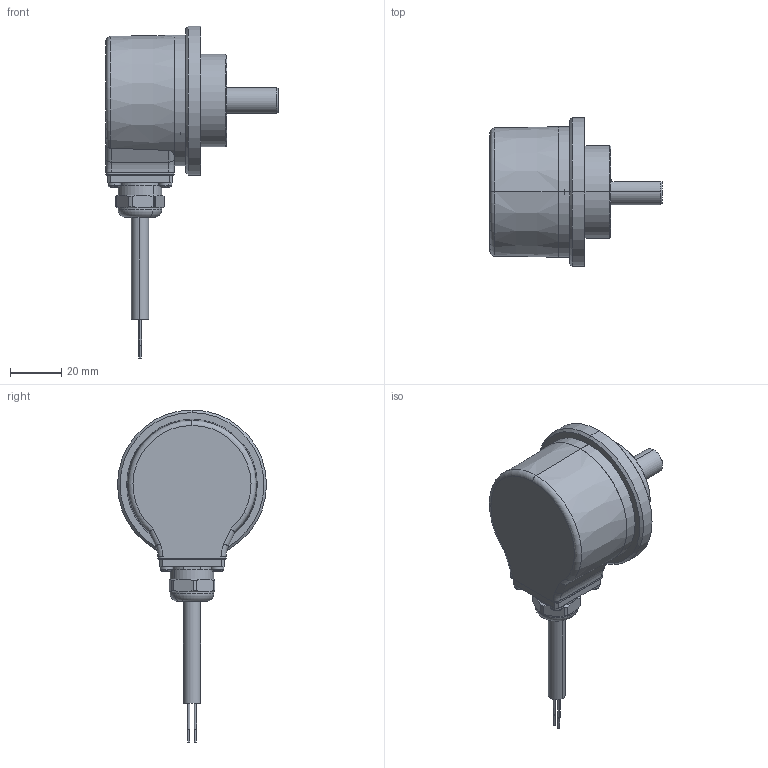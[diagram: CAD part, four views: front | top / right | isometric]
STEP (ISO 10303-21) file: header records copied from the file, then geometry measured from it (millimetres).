
FILE_DESCRIPTION (( 'STEP AP203' ), '1' );
FILE_NAME ('5000.83X2.XXXX.STEP', '2009-09-11T08:31:41', ( 'admin' ), ( 'Fritz Kübler GmbH' ), 'SwSTEP 2.0', 'SolidWorks 2009', '' );
FILE_SCHEMA (( 'CONFIG_CONTROL_DESIGN' ));
Length unit declared in the file: millimetre
Products named in the file (1): 5000.83X2.XXXX
Bounding box: 67 x 58 x 129.2 mm (x, y, z)
Volume: 55600.1 mm3; surface area: 37835 mm2
Topology: 12 solids, 13 shells, 545 faces, 1286 edges, 780 vertices
Faces by surface type: cylinder 170, plane 165, cone 105, torus 63, sphere 32, bspline 10
Entity records: 16410 total; most frequent: CARTESIAN_POINT 3892, DIRECTION 2801, ORIENTED_EDGE 2440, EDGE_CURVE 1220, AXIS2_PLACEMENT_3D 1169, VERTEX_POINT 750, EDGE_LOOP 636, CIRCLE 633
